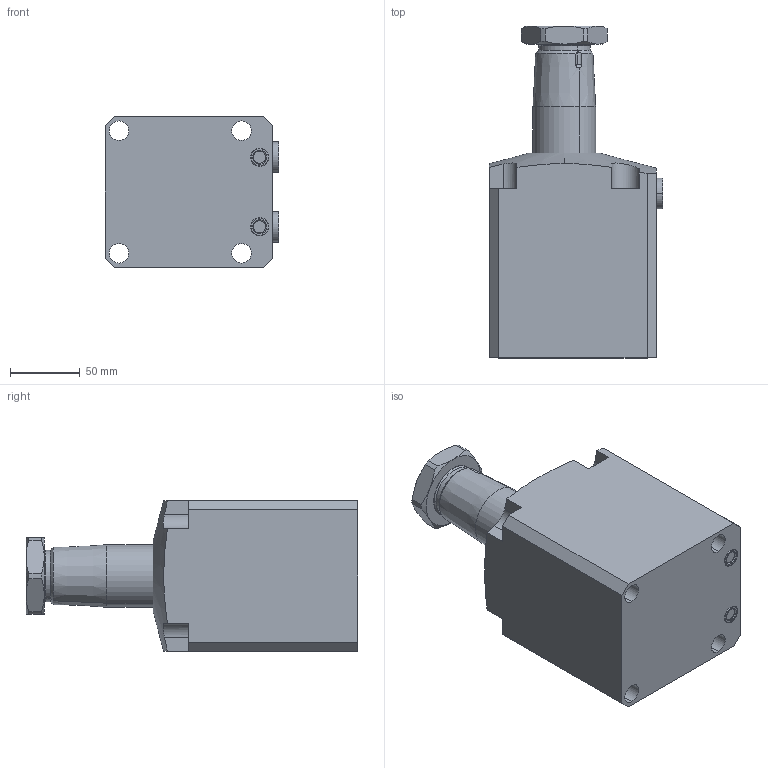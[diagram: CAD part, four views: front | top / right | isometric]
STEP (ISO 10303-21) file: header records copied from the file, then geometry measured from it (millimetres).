
FILE_DESCRIPTION(/* description */ (''),/* implementation_level */ '2;1');
FILE_NAME(/* name */ 'BRC25-RN60.stp',/* time_stamp */ '2025-01-05T08:33:39+08:00',/* author */ (''),/* organization */ (''),/* preprocessor_version */ 'ST-DEVELOPER v16.7',/* originating_system */ 'SIEMENS PLM Software NX 12.0',/* authorisation */ '');
FILE_SCHEMA (('AUTOMOTIVE_DESIGN { 1 0 10303 214 3 1 1 1 }'));
Length unit declared in the file: millimetre
Products named in the file (5): BRC25-LN60-03; BRC25-LN60-04; BRC25-LN60-02; BRC25-LN60-01; BRC25-RN60_stp
Assembly tree (5 placements, depth 2):
  BRC25-RN60_stp
    BRC25-LN60-01
    BRC25-LN60-02
    BRC25-LN60-04  x2
    BRC25-LN60-03
Bounding box: 124.8 x 238.3 x 108 mm (x, y, z)
Volume: 1831508.2 mm3; surface area: 140165.8 mm2
Topology: 7 solids, 7 shells, 176 faces, 401 edges, 248 vertices
Faces by surface type: plane 68, cylinder 57, cone 34, torus 16, sphere 1
Full cylindrical faces by diameter (mm): 13 x2
Entity records: 4661 total; most frequent: CARTESIAN_POINT 958, DIRECTION 778, ORIENTED_EDGE 712, EDGE_CURVE 356, AXIS2_PLACEMENT_3D 313, VERTEX_POINT 222, EDGE_LOOP 180, ADVANCED_FACE 156
